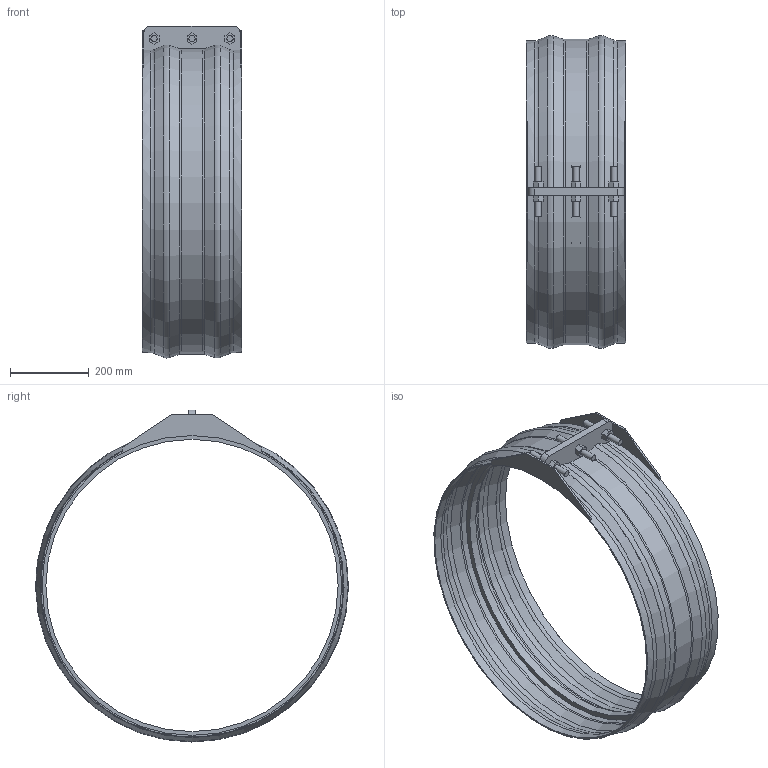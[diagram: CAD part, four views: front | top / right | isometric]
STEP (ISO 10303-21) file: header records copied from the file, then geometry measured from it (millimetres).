
FILE_DESCRIPTION(/* description */ ('VIC SS NON RESTRAINED COUPLING STYLE 229S (FLEX) (BEF)','CAx-IF Rec.Pracs.---Representation and Presentation of Product Manufacturing Information (PMI)---4.0---2014-10-13'),/* implementation_level */ '2;1');
FILE_NAME(/* name */ 'C:\Users\Vjadhav\Desktop\CAD for Inventor\1\229S\STEP\Victaulic_VBSP_Coupling Flexible Non-Restrained_Style 229S (BEF)\Victaulic_VBSP_Coupling Flexible Non-Restrained_Style 229S (BEF)_30 (750).stp',/* time_stamp */ '2021-08-26T18:17:17+06:00',/* author */ ('Vjadhav'),/* organization */ ('Victaulic'),/* preprocessor_version */ 'ST-DEVELOPER v17.2',/* originating_system */ 'Autodesk Inventor 2019',/* authorisation */ '');
FILE_SCHEMA (('AP242_MANAGED_MODEL_BASED_3D_ENGINEERING_MIM_LF { 1 0 10303 442 1 1 4 }'));
Length unit declared in the file: inch
Products named in the file (1): 229S-30.0
Bounding box: 254 x 795.78 x 844.08 mm (x, y, z)
Volume: 3427996.7 mm3; surface area: 1447923.1 mm2
Topology: 1 solids, 1 shells, 111 faces, 301 edges, 206 vertices
Faces by surface type: plane 67, cylinder 24, torus 12, cone 8
Full cylindrical faces by diameter (mm): 15.875 x6, 742.95 x1, 762 x2, 768.35 x2
Entity records: 3874 total; most frequent: CARTESIAN_POINT 748, DIRECTION 633, ORIENTED_EDGE 602, EDGE_CURVE 301, AXIS2_PLACEMENT_3D 227, VERTEX_POINT 206, LINE 179, VECTOR 179
